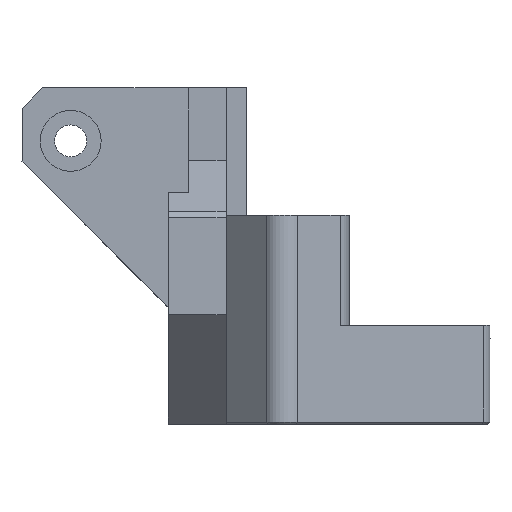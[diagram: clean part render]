
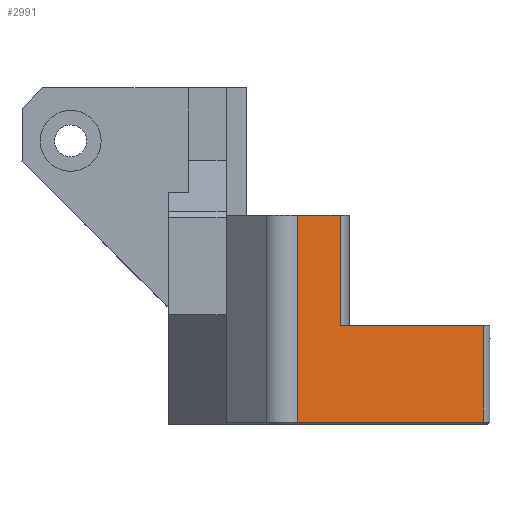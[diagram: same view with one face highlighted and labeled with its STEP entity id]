
A CAD part, left-side view. The second image highlights one B-rep face of the part: STEP entity #2991.
In plain terms, the highlighted planar face has unit normal (-0.707, -0.707, 0).
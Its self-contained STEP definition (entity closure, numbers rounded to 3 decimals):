
#241=PLANE('',#3211);
#441=LINE('',#5362,#724);
#478=LINE('',#5507,#761);
#482=LINE('',#5568,#765);
#483=LINE('',#5571,#766);
#484=LINE('',#5573,#767);
#485=LINE('',#5574,#768);
#724=VECTOR('',#3681,10.);
#761=VECTOR('',#3796,10.);
#765=VECTOR('',#3814,10.);
#766=VECTOR('',#3817,10.);
#767=VECTOR('',#3818,10.);
#768=VECTOR('',#3819,10.);
#929=FACE_OUTER_BOUND('',#1097,.T.);
#1097=EDGE_LOOP('',(#2551,#2552,#2553,#2554,#2555,#2556));
#1436=VERTEX_POINT('',#5359);
#1437=VERTEX_POINT('',#5361);
#1470=VERTEX_POINT('',#5502);
#1471=VERTEX_POINT('',#5506);
#1476=VERTEX_POINT('',#5570);
#1477=VERTEX_POINT('',#5572);
#1803=EDGE_CURVE('',#1436,#1437,#441,.T.);
#1861=EDGE_CURVE('',#1470,#1471,#478,.T.);
#1871=EDGE_CURVE('',#1471,#1436,#482,.T.);
#1872=EDGE_CURVE('',#1476,#1470,#483,.T.);
#1873=EDGE_CURVE('',#1476,#1477,#484,.T.);
#1874=EDGE_CURVE('',#1437,#1477,#485,.T.);
#2551=ORIENTED_EDGE('',*,*,#1861,.F.);
#2552=ORIENTED_EDGE('',*,*,#1872,.F.);
#2553=ORIENTED_EDGE('',*,*,#1873,.T.);
#2554=ORIENTED_EDGE('',*,*,#1874,.F.);
#2555=ORIENTED_EDGE('',*,*,#1803,.F.);
#2556=ORIENTED_EDGE('',*,*,#1871,.F.);
#2991=ADVANCED_FACE('',(#929),#241,.T.);
#3211=AXIS2_PLACEMENT_3D('',#5569,#3815,#3816);
#3681=DIRECTION('',(0.707,-0.707,0.));
#3796=DIRECTION('',(-0.707,0.707,0.));
#3814=DIRECTION('',(0.,0.,1.));
#3815=DIRECTION('center_axis',(-0.707,-0.707,0.));
#3816=DIRECTION('ref_axis',(0.707,-0.707,0.));
#3817=DIRECTION('',(0.,0.,-1.));
#3818=DIRECTION('',(-0.707,0.707,0.));
#3819=DIRECTION('',(0.,0.,-1.));
#5359=CARTESIAN_POINT('',(4.55,38.066,-15.039));
#5361=CARTESIAN_POINT('',(8.775,33.841,-15.039));
#5362=CARTESIAN_POINT('',(10.867,31.749,-15.039));
#5502=CARTESIAN_POINT('',(22.898,19.718,-35.427));
#5506=CARTESIAN_POINT('',(4.55,38.066,-35.427));
#5507=CARTESIAN_POINT('',(10.867,31.749,-35.427));
#5568=CARTESIAN_POINT('',(4.55,38.066,-24.277));
#5569=CARTESIAN_POINT('Origin',(4.55,38.066,-35.327));
#5570=CARTESIAN_POINT('',(22.898,19.718,-25.877));
#5571=CARTESIAN_POINT('',(22.898,19.718,-33.68));
#5572=CARTESIAN_POINT('',(8.775,33.841,-25.877));
#5573=CARTESIAN_POINT('',(6.651,35.965,-25.877));
#5574=CARTESIAN_POINT('',(8.775,33.841,-30.055));
